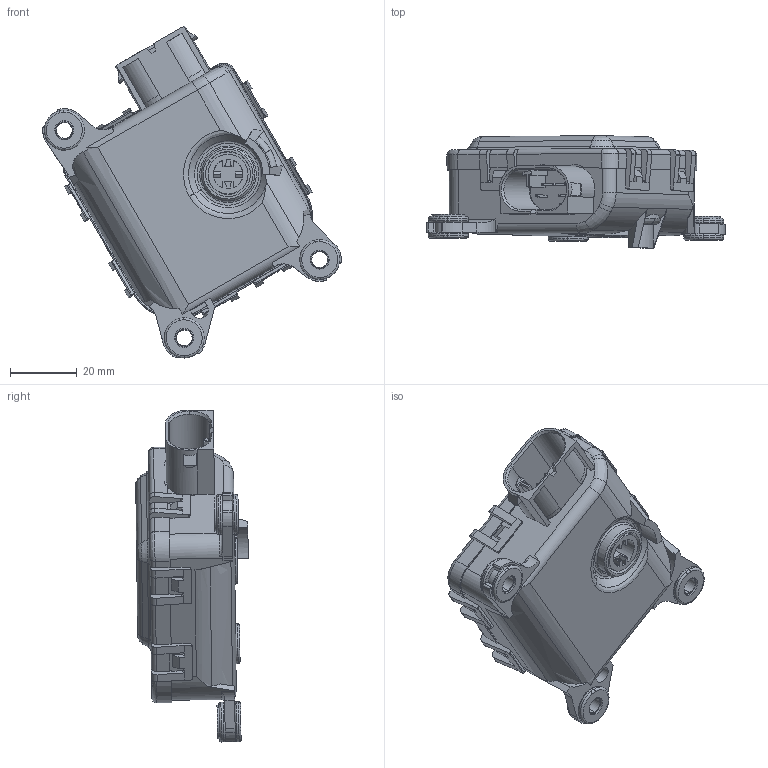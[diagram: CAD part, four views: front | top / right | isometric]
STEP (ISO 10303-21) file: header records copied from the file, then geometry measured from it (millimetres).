
FILE_DESCRIPTION(('CATIA V5 STEP Exchange'),'2;1');
FILE_NAME('G:\PAH\EHC12\EHC2\HU\50_PC3_Team\Zsolt Von Aranyi\Motorenkatalog_2010-11\0132801142.stp','2010-07-29T14:58:08+00:00',('none'),('none'),'CATIA Version 5 Release 19 SP 3 (IN-10)','CATIA V5 STEP AP214','none');
FILE_SCHEMA(('AUTOMOTIVE_DESIGN { 1 0 10303 214 1 1 1 1 }'));
Length unit declared in the file: millimetre
Products named in the file (3): Product1; vmc2; 1 136 101 055
Assembly tree (2 placements, depth 2):
  Product1
    vmc2
    1 136 101 055
Bounding box: 89.69 x 33.79 x 99.71 mm (x, y, z)
Volume: 95020.1 mm3; surface area: 21738 mm2
Topology: 8 solids, 8 shells, 738 faces, 2092 edges, 1360 vertices
Faces by surface type: plane 360, cylinder 259, torus 65, bspline 36, cone 16, extrusion 2
Entity records: 28825 total; most frequent: CARTESIAN_POINT 10837, ORIENTED_EDGE 4184, DIRECTION 2904, EDGE_CURVE 2092, VERTEX_POINT 1360, VECTOR 1210, LINE 1208, AXIS2_PLACEMENT_3D 1061
